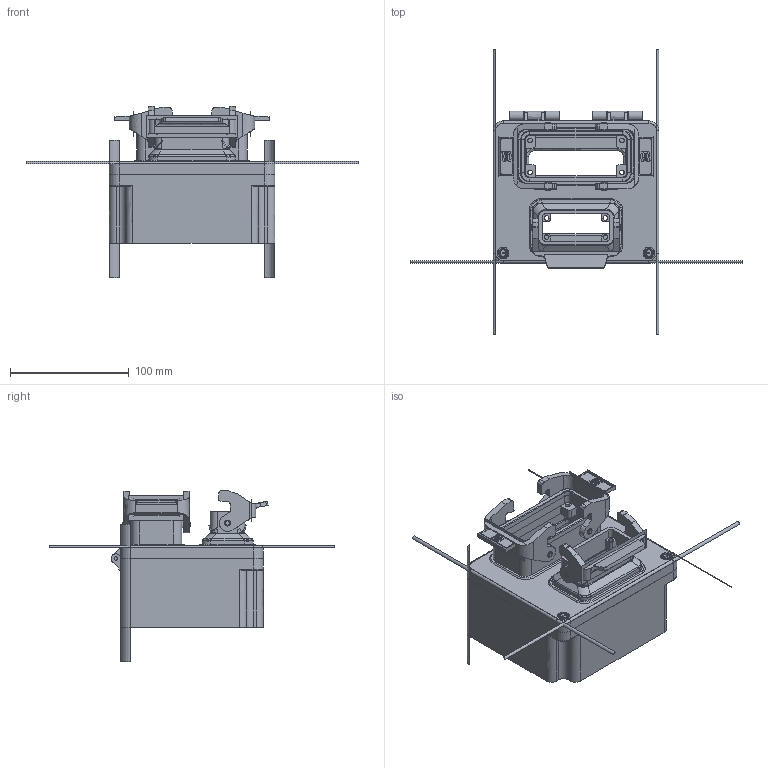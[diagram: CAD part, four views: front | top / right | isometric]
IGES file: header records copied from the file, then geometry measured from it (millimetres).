
Start section: Cimatron Iges convertor
Global section: file name: I:\k-box\cimatron\groesse_3\gr_3_16e_10a-ab.igs; native system: prt/Cimatron V13.10; preprocessor: Cimatron IGES (V5.3) Convertor V5.0.6.0; author: NONE; organization: NONE; date: 060821.192347; units: millimetre
Bounding box: 280.08 x 240.08 x 144.56 mm (x, y, z)
Surface area: 183810.5 mm2 (no closed solid volume)
Topology: 0 solids, 0 shells, 1404 faces, 9202 edges, 10735 vertices
Faces by surface type: bspline 1242, revolution 104, extrusion 58
